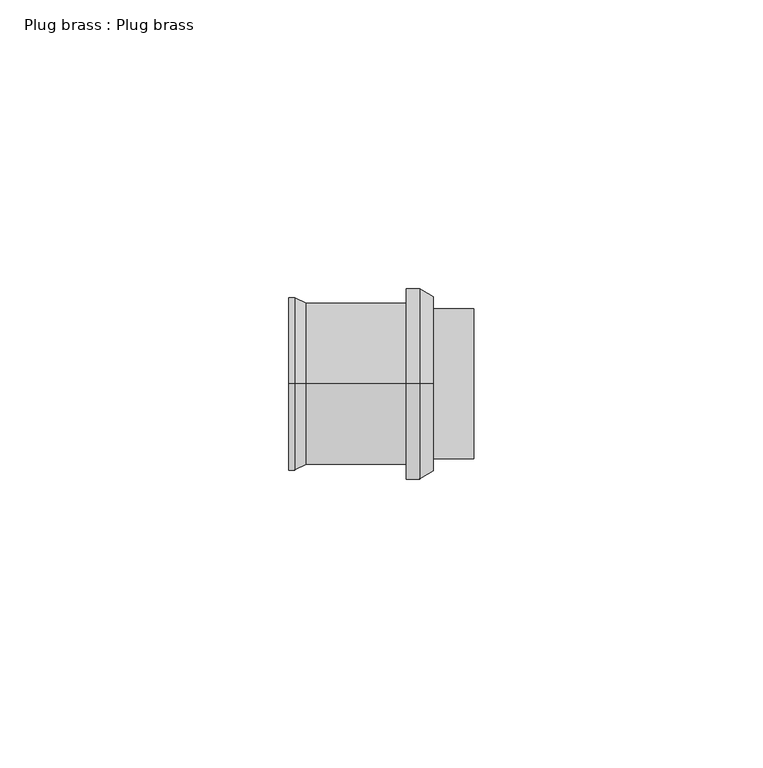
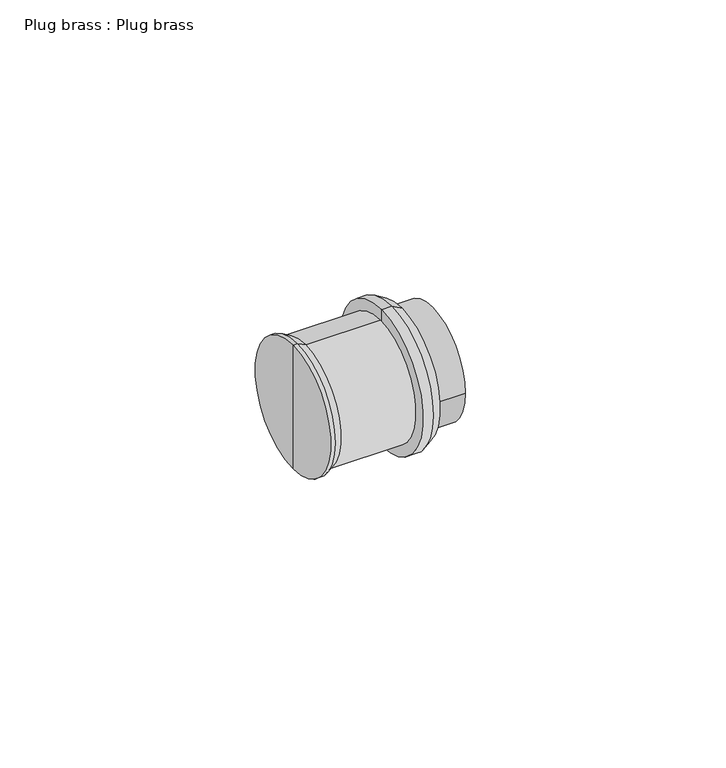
"""IFC4 building model written with IfcOpenShell, lengths in millimetres: pipe fitting geometry, Plug brass : Plug brass."""

from ifc_helpers import new_model, si_unit, point, frame, origin, origin_2d, place, context, project, spatial, polyline, circle_curve, trimmed, segment, composite_curve, outline, extrude, source, transform, mapped, element, save
from ifc_brep_helpers import plane_surface, cylinder_surface, revolved_surface, advanced_brep


def plug_brass_plug_brass_74f1fcb9(model_context):
    return source(origin(), model_context, "Body", "SolidModel", [
        advanced_brep(
        [(1.0, 0.0, 0.0), (1.0, 0.0, 15.1432269), (1.0, 0.0, -15.1432269), (-3.7, 0.0, -16.5), (-3.7, 0.0, 16.5), (-3.7, 0.0, 0.0), (-1.35, 0.0, -16.5), (-1.35, 0.0, 16.5)],
        [
            (0, 1),
            (1, 2, circle_curve(frame((1.0, 0.0, 0.0), z_axis=(1.0, 0.0, 0.0), x_axis=(0.0, 0.0, 1.0)), 15.1432269)),
            (2, 0),
            (2, 1, circle_curve(frame((1.0, 0.0, 0.0), z_axis=(1.0, 0.0, 0.0), x_axis=(0.0, 0.0, 1.0)), 15.1432269)),
            (3, 4, circle_curve(frame((-3.7, 0.0, 0.0), z_axis=(-1.0, 0.0, 0.0), x_axis=(0.0, 0.0, 1.0)), 16.5)),
            (4, 5),
            (5, 3),
            (4, 3, circle_curve(frame((-3.7, 0.0, 0.0), z_axis=(-1.0, 0.0, 0.0), x_axis=(0.0, 0.0, 1.0)), 16.5)),
            (6, 7, circle_curve(frame((-1.35, 0.0, 0.0), z_axis=(-1.0, 0.0, 0.0), x_axis=(0.0, 0.0, 1.0)), 16.5)),
            (7, 4),
            (3, 6),
            (7, 6, circle_curve(frame((-1.35, 0.0, 0.0), z_axis=(-1.0, 0.0, 0.0), x_axis=(0.0, 0.0, 1.0)), 16.5)),
            (1, 7),
            (6, 2),
        ],
        [
            plane_surface(frame((1.0, 0.0, 0.0), z_axis=(1.0, 0.0, 0.0), x_axis=(0.0, 0.0, 1.0))),
            plane_surface(frame((-3.7, 0.0, 0.0), z_axis=(-1.0, 0.0, 0.0), x_axis=(0.0, 0.0, 1.0))),
            cylinder_surface(frame((0.0, 0.0, 0.0), z_axis=(1.0, 0.0, 0.0), x_axis=(0.0, 0.0, 1.0)), 16.5),
            revolved_surface(polyline([(-1.35, 0.0, 16.5), (1.0, 0.0, 15.1432269)]), (0.0, 0.0, 0.0), (1.0, 0.0, 0.0)),
        ],
        [
            (0, [[1, 2, 3]]),
            (0, [[-3, 4, -1]]),
            (1, [[5, 6, 7]]),
            (1, [[8, -7, -6]]),
            (2, [[9, 10, -5, 11]]),
            (2, [[12, -11, -8, -10]]),
            (3, [[-2, 13, -9, 14]]),
            (3, [[-4, -14, -12, -13]]),
        ],
    ),
        advanced_brep(
        [(-3.7, 0.0, -14.0), (-3.7, 0.0, 14.0), (-21.0, 0.0, 14.0), (-21.0, 0.0, -14.0), (-24.0, 0.0, -15.0), (-24.0, 0.0, 15.0), (-24.0, 0.0, 0.0), (-3.7, 0.0, 0.0), (-23.0, 0.0, -15.0), (-23.0, 0.0, 15.0)],
        [
            (0, 1, circle_curve(frame((-3.7, 0.0, 0.0), z_axis=(-1.0, 0.0, 0.0), x_axis=(0.0, 0.0, 1.0)), 14.0)),
            (1, 2),
            (2, 3, circle_curve(frame((-21.0, 0.0, 0.0), z_axis=(1.0, 0.0, 0.0), x_axis=(0.0, 0.0, 1.0)), 14.0)),
            (3, 0),
            (1, 0, circle_curve(frame((-3.7, 0.0, 0.0), z_axis=(-1.0, 0.0, 0.0), x_axis=(0.0, 0.0, 1.0)), 14.0)),
            (3, 2, circle_curve(frame((-21.0, 0.0, 0.0), z_axis=(1.0, 0.0, 0.0), x_axis=(0.0, 0.0, 1.0)), 14.0)),
            (4, 5, circle_curve(frame((-24.0, 0.0, 0.0), z_axis=(-1.0, 0.0, 0.0), x_axis=(0.0, 0.0, 1.0)), 15.0)),
            (5, 6),
            (6, 4),
            (5, 4, circle_curve(frame((-24.0, 0.0, 0.0), z_axis=(-1.0, 0.0, 0.0), x_axis=(0.0, 0.0, 1.0)), 15.0)),
            (7, 1),
            (0, 7),
            (8, 9, circle_curve(frame((-23.0, 0.0, 0.0), z_axis=(-1.0, 0.0, 0.0), x_axis=(0.0, 0.0, 1.0)), 15.0)),
            (9, 5),
            (4, 8),
            (9, 8, circle_curve(frame((-23.0, 0.0, 0.0), z_axis=(-1.0, 0.0, 0.0), x_axis=(0.0, 0.0, 1.0)), 15.0)),
            (2, 9),
            (8, 3),
        ],
        [
            cylinder_surface(frame((1911.8038476, 0.0, 0.0), z_axis=(1.0, 0.0, 0.0), x_axis=(0.0, 0.0, 1.0)), 14.0),
            plane_surface(frame((-24.0, 0.0, 0.0), z_axis=(-1.0, 0.0, 0.0), x_axis=(0.0, 0.0, 1.0))),
            plane_surface(frame((-3.7, 0.0, 0.0), z_axis=(1.0, 0.0, 0.0), x_axis=(0.0, 0.0, 1.0))),
            cylinder_surface(frame((1911.8038476, 0.0, 0.0), z_axis=(1.0, 0.0, 0.0), x_axis=(0.0, 0.0, 1.0)), 15.0),
            revolved_surface(polyline([(-23.0, 0.0, 15.0), (-21.0, 0.0, 14.0)]), (1911.8038476, 0.0, 0.0), (1.0, 0.0, 0.0)),
        ],
        [
            (0, [[1, 2, 3, 4]]),
            (0, [[5, -4, 6, -2]]),
            (1, [[7, 8, 9]]),
            (1, [[10, -9, -8]]),
            (2, [[11, -1, 12]]),
            (2, [[-12, -5, -11]]),
            (3, [[13, 14, -7, 15]]),
            (3, [[16, -15, -10, -14]]),
            (4, [[-3, 17, -13, 18]]),
            (4, [[-6, -18, -16, -17]]),
        ],
    ),
        extrude(outline(composite_curve([segment(trimmed(circle_curve(origin_2d(), 13.0), [point((13.0, 0.0))], [point((-13.0, 0.0))], False, "CARTESIAN"), True, "CONTINUOUS"), segment(trimmed(circle_curve(origin_2d(), 13.0), [point((-13.0, 0.0))], [point((13.0, 0.0))], False, "CARTESIAN"), True, "CONTINUOUS")], self_intersect=False)), frame((0.0, 0.0, 0.0), z_axis=(1.0, 0.0, 0.0), x_axis=(0.0, 1.0, 0.0)), (0.0, 0.0, 1.0), 8.0),
    ])


if __name__ == "__main__":
    model = new_model("IFC4")
    model_context = context("Model", 3, world=origin())
    ifc_project = project(units=[si_unit("LENGTHUNIT", "METRE", prefix="MILLI")], contexts=[model_context])
    site = spatial("IfcSite", under=ifc_project)
    building = spatial("IfcBuilding", under=site)
    placement = place(None, origin())
    plug_brass_plug_brass_shape = plug_brass_plug_brass_74f1fcb9(model_context)
    element("IfcPipeFitting", 1, ObjectType="Plug brass : Plug brass", at=placement, inside=building, context=model_context, shape_type="MappedRepresentation", body=[
        mapped(plug_brass_plug_brass_shape, transform((0.0, 0.0, 0.0), x_axis=(1.0, 0.0, 0.0), y_axis=(0.0, 1.0, 0.0), z_axis=(0.0, 0.0, 1.0))),
    ])
    save(model, "model.ifc")
